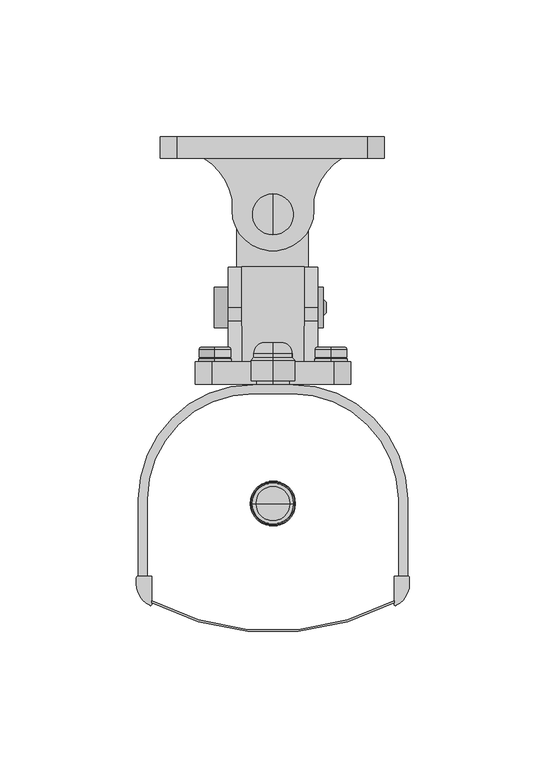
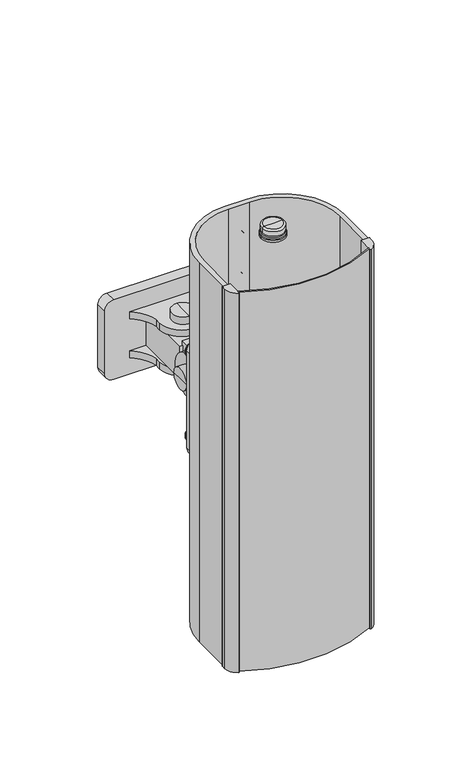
"""IFC4 building model written with IfcOpenShell, lengths in millimetres: proxy geometry, TS-C 10-300_T-EN54 : TS-C 10-300/T-EN54."""

from ifc_helpers import new_model, si_unit, point, frame, frame_2d, origin, place, context, project, spatial, polyline, circle_curve, ellipse_curve, trimmed, segment, composite_curve, outline, extrude, source, transform, mapped, element, save
from ifc_brep_helpers import plane_surface, cylinder_surface, revolved_surface, advanced_brep


def communication_devices_98838bba(model_context):
    return source(origin(), model_context, "Body", "SolidModel", [
        advanced_brep(
        [(-21.25, 9.0, 124.3497739), (-21.25, 9.0, 112.387496), (-21.25, 10.139588, 112.387496), (-21.25, 10.139588, 124.3497739), (-21.25, 9.0, 118.368635), (-21.25, 14.25, 123.4478352), (-21.25, 14.25, 113.2894348), (-21.25, 14.25, 118.368635), (-21.25, 13.5810517, 124.1167835), (-21.25, 13.5810517, 112.6204864), (-21.25, 10.600008, 124.1167835), (-21.25, 10.600008, 112.6204864), (-21.25, 10.600008, 123.0847804), (-21.25, 10.600008, 113.6524896)],
        [
            (0, 1, circle_curve(frame((-21.25, 9.0, 118.368635), z_axis=(0.0, 1.0, 0.0), x_axis=(0.0, 0.0, -1.0)), 5.981139)),
            (1, 2),
            (2, 3, circle_curve(frame((-21.25, 10.139588, 118.368635), z_axis=(0.0, -1.0, 0.0), x_axis=(0.0, 0.0, -1.0)), 5.981139)),
            (3, 0),
            (1, 0, circle_curve(frame((-21.25, 9.0, 118.368635), z_axis=(0.0, 1.0, 0.0), x_axis=(0.0, 0.0, -1.0)), 5.981139)),
            (3, 2, circle_curve(frame((-21.25, 10.139588, 118.368635), z_axis=(0.0, -1.0, 0.0), x_axis=(0.0, 0.0, -1.0)), 5.981139)),
            (4, 1),
            (0, 4),
            (5, 6, circle_curve(frame((-21.25, 14.25, 118.368635), z_axis=(0.0, 1.0, 0.0), x_axis=(0.0, 0.0, -1.0)), 5.0792002)),
            (6, 7),
            (7, 5),
            (6, 5, circle_curve(frame((-21.25, 14.25, 118.368635), z_axis=(0.0, 1.0, 0.0), x_axis=(0.0, 0.0, -1.0)), 5.0792002)),
            (8, 9, circle_curve(frame((-21.25, 13.5810517, 118.368635), z_axis=(0.0, 1.0, 0.0), x_axis=(0.0, 0.0, -1.0)), 5.7481485)),
            (9, 6, circle_curve(frame((-21.25, 13.5810517, 113.2894348), z_axis=(1.0, 0.0, 0.0), x_axis=(0.0, 1.0, 0.0)), 0.6689483)),
            (5, 8, circle_curve(frame((-21.25, 13.5810517, 123.4478352), z_axis=(1.0, 0.0, 0.0), x_axis=(0.0, 1.0, 0.0)), 0.6689483)),
            (9, 8, circle_curve(frame((-21.25, 13.5810517, 118.368635), z_axis=(0.0, 1.0, 0.0), x_axis=(0.0, 0.0, -1.0)), 5.7481485)),
            (10, 11, circle_curve(frame((-21.25, 10.600008, 118.368635), z_axis=(0.0, 1.0, 0.0), x_axis=(0.0, 0.0, -1.0)), 5.7481485)),
            (11, 9),
            (8, 10),
            (11, 10, circle_curve(frame((-21.25, 10.600008, 118.368635), z_axis=(0.0, 1.0, 0.0), x_axis=(0.0, 0.0, -1.0)), 5.7481485)),
            (12, 13, circle_curve(frame((-21.25, 10.600008, 118.368635), z_axis=(0.0, 1.0, 0.0), x_axis=(0.0, 0.0, -1.0)), 4.7161454)),
            (13, 11),
            (10, 12),
            (13, 12, circle_curve(frame((-21.25, 10.600008, 118.368635), z_axis=(0.0, 1.0, 0.0), x_axis=(0.0, 0.0, -1.0)), 4.7161454)),
            (2, 13),
            (12, 3),
        ],
        [
            cylinder_surface(frame((-21.25, 12.3716321, 118.368635), z_axis=(0.0, -1.0, 0.0), x_axis=(0.0, 0.0, -1.0)), 5.981139),
            plane_surface(frame((-21.25, 9.0, 118.368635), z_axis=(0.0, -1.0, 0.0), x_axis=(0.0, 0.0, -1.0))),
            plane_surface(frame((-21.25, 14.25, 118.368635), z_axis=(0.0, 1.0, 0.0), x_axis=(0.0, 0.0, -1.0))),
            revolved_surface(trimmed(ellipse_curve(frame((-21.25, 13.5810517, 113.2894348), z_axis=(-1.0, 0.0, 0.0), x_axis=(0.0, 1.0, 0.0)), 0.6689483, 0.6689483), [point((-21.25, 14.25, 113.2894348))], [point((-21.25, 13.5810517, 112.6204864))], True, "CARTESIAN"), (-21.25, 12.3716321, 118.368635), (0.0, -1.0, 0.0)),
            cylinder_surface(frame((-21.25, 12.3716321, 118.368635), z_axis=(0.0, -1.0, 0.0), x_axis=(0.0, 0.0, -1.0)), 5.7481485),
            plane_surface(frame((-21.25, 10.600008, 118.368635), z_axis=(0.0, -1.0, 0.0), x_axis=(0.0, 0.0, -1.0))),
            revolved_surface(polyline([(-21.25, 10.600008, 113.6524896), (-21.25, 10.139588, 112.387496)]), (-21.25, 12.3716321, 118.368635), (0.0, -1.0, 0.0)),
        ],
        [
            (0, [[1, 2, 3, 4]]),
            (0, [[5, -4, 6, -2]]),
            (1, [[7, -1, 8]]),
            (1, [[-8, -5, -7]]),
            (2, [[9, 10, 11]]),
            (2, [[12, -11, -10]]),
            (3, [[13, 14, -9, 15]]),
            (3, [[16, -15, -12, -14]]),
            (4, [[17, 18, -13, 19]]),
            (4, [[20, -19, -16, -18]]),
            (5, [[21, 22, -17, 23]]),
            (5, [[24, -23, -20, -22]]),
            (6, [[-3, 25, -21, 26]]),
            (6, [[-6, -26, -24, -25]]),
        ],
    ),
        advanced_brep(
        [(21.25, 10.139588, 124.3497739), (21.25, 10.139588, 112.387496), (21.25, 9.0, 112.387496), (21.25, 9.0, 124.3497739), (21.25, 9.0, 118.368635), (21.25, 14.25, 118.368635), (21.25, 14.25, 113.2894348), (21.25, 14.25, 123.4478352), (21.25, 13.5810517, 112.6204864), (21.25, 13.5810517, 124.1167835), (21.25, 10.600008, 112.6204864), (21.25, 10.600008, 124.1167835), (21.25, 10.600008, 113.6524896), (21.25, 10.600008, 123.0847804)],
        [
            (0, 1, circle_curve(frame((21.25, 10.139588, 118.368635), z_axis=(0.0, -1.0, 0.0), x_axis=(0.0, 0.0, -1.0)), 5.981139)),
            (1, 2),
            (2, 3, circle_curve(frame((21.25, 9.0, 118.368635), z_axis=(0.0, 1.0, 0.0), x_axis=(0.0, 0.0, -1.0)), 5.981139)),
            (3, 0),
            (1, 0, circle_curve(frame((21.25, 10.139588, 118.368635), z_axis=(0.0, -1.0, 0.0), x_axis=(0.0, 0.0, -1.0)), 5.981139)),
            (3, 2, circle_curve(frame((21.25, 9.0, 118.368635), z_axis=(0.0, 1.0, 0.0), x_axis=(0.0, 0.0, -1.0)), 5.981139)),
            (2, 4),
            (4, 3),
            (5, 6),
            (6, 7, circle_curve(frame((21.25, 14.25, 118.368635), z_axis=(0.0, 1.0, 0.0), x_axis=(0.0, 0.0, -1.0)), 5.0792002)),
            (7, 5),
            (7, 6, circle_curve(frame((21.25, 14.25, 118.368635), z_axis=(0.0, 1.0, 0.0), x_axis=(0.0, 0.0, -1.0)), 5.0792002)),
            (6, 8, circle_curve(frame((21.25, 13.5810517, 113.2894348), z_axis=(-1.0, 0.0, 0.0), x_axis=(0.0, 1.0, 0.0)), 0.6689483)),
            (8, 9, circle_curve(frame((21.25, 13.5810517, 118.368635), z_axis=(0.0, 1.0, 0.0), x_axis=(0.0, 0.0, -1.0)), 5.7481485)),
            (9, 7, circle_curve(frame((21.25, 13.5810517, 123.4478352), z_axis=(-1.0, 0.0, 0.0), x_axis=(0.0, 1.0, 0.0)), 0.6689483)),
            (9, 8, circle_curve(frame((21.25, 13.5810517, 118.368635), z_axis=(0.0, 1.0, 0.0), x_axis=(0.0, 0.0, -1.0)), 5.7481485)),
            (8, 10),
            (10, 11, circle_curve(frame((21.25, 10.600008, 118.368635), z_axis=(0.0, 1.0, 0.0), x_axis=(0.0, 0.0, -1.0)), 5.7481485)),
            (11, 9),
            (11, 10, circle_curve(frame((21.25, 10.600008, 118.368635), z_axis=(0.0, 1.0, 0.0), x_axis=(0.0, 0.0, -1.0)), 5.7481485)),
            (10, 12),
            (12, 13, circle_curve(frame((21.25, 10.600008, 118.368635), z_axis=(0.0, 1.0, 0.0), x_axis=(0.0, 0.0, -1.0)), 4.7161454)),
            (13, 11),
            (13, 12, circle_curve(frame((21.25, 10.600008, 118.368635), z_axis=(0.0, 1.0, 0.0), x_axis=(0.0, 0.0, -1.0)), 4.7161454)),
            (12, 1),
            (0, 13),
        ],
        [
            cylinder_surface(frame((21.25, 12.3716321, 118.368635), z_axis=(0.0, 1.0, 0.0), x_axis=(0.0, 0.0, -1.0)), 5.981139),
            plane_surface(frame((21.25, 9.0, 118.368635), z_axis=(0.0, -1.0, 0.0), x_axis=(0.0, 0.0, -1.0))),
            plane_surface(frame((21.25, 14.25, 118.368635), z_axis=(0.0, 1.0, 0.0), x_axis=(0.0, 0.0, -1.0))),
            revolved_surface(trimmed(ellipse_curve(frame((21.25, 13.5810517, 113.2894348), z_axis=(1.0, 0.0, 0.0), x_axis=(0.0, 1.0, 0.0)), 0.6689483, 0.6689483), [point((21.25, 13.5810517, 112.6204864))], [point((21.25, 14.25, 113.2894348))], True, "CARTESIAN"), (21.25, 12.3716321, 118.368635), (0.0, 1.0, 0.0)),
            cylinder_surface(frame((21.25, 12.3716321, 118.368635), z_axis=(0.0, 1.0, 0.0), x_axis=(0.0, 0.0, -1.0)), 5.7481485),
            plane_surface(frame((21.25, 10.600008, 118.368635), z_axis=(0.0, -1.0, 0.0), x_axis=(0.0, 0.0, -1.0))),
            revolved_surface(polyline([(21.25, 10.139588, 112.387496), (21.25, 10.600008, 113.6524896)]), (21.25, 12.3716321, 118.368635), (0.0, 1.0, 0.0)),
        ],
        [
            (0, [[1, 2, 3, 4]]),
            (0, [[5, -4, 6, -2]]),
            (1, [[-3, 7, 8]]),
            (1, [[-6, -8, -7]]),
            (2, [[9, 10, 11]]),
            (2, [[-11, 12, -9]]),
            (3, [[-10, 13, 14, 15]]),
            (3, [[-12, -15, 16, -13]]),
            (4, [[-14, 17, 18, 19]]),
            (4, [[-16, -19, 20, -17]]),
            (5, [[-18, 21, 22, 23]]),
            (5, [[-20, -23, 24, -21]]),
            (6, [[-22, 25, -1, 26]]),
            (6, [[-24, -26, -5, -25]]),
        ],
    ),
        advanced_brep(
        [(-21.25, 10.139588, 172.4877181), (-21.25, 10.139588, 184.449996), (-21.25, 9.0, 184.449996), (-21.25, 9.0, 172.4877181), (-21.25, 9.0, 178.468857), (-21.25, 14.25, 178.468857), (-21.25, 14.25, 183.5480572), (-21.25, 14.25, 173.3896568), (-21.25, 13.5810517, 184.2170056), (-21.25, 13.5810517, 172.7207085), (-21.25, 10.600008, 184.2170056), (-21.25, 10.600008, 172.7207085), (-21.25, 10.600008, 183.1850024), (-21.25, 10.600008, 173.7527116)],
        [
            (0, 1, circle_curve(frame((-21.25, 10.139588, 178.468857), z_axis=(0.0, -1.0, 0.0), x_axis=(0.0, 0.0, 1.0)), 5.981139)),
            (1, 2),
            (2, 3, circle_curve(frame((-21.25, 9.0, 178.468857), z_axis=(0.0, 1.0, 0.0), x_axis=(0.0, 0.0, 1.0)), 5.981139)),
            (3, 0),
            (1, 0, circle_curve(frame((-21.25, 10.139588, 178.468857), z_axis=(0.0, -1.0, 0.0), x_axis=(0.0, 0.0, 1.0)), 5.981139)),
            (3, 2, circle_curve(frame((-21.25, 9.0, 178.468857), z_axis=(0.0, 1.0, 0.0), x_axis=(0.0, 0.0, 1.0)), 5.981139)),
            (2, 4),
            (4, 3),
            (5, 6),
            (6, 7, circle_curve(frame((-21.25, 14.25, 178.468857), z_axis=(0.0, 1.0, 0.0), x_axis=(0.0, 0.0, 1.0)), 5.0792002)),
            (7, 5),
            (7, 6, circle_curve(frame((-21.25, 14.25, 178.468857), z_axis=(0.0, 1.0, 0.0), x_axis=(0.0, 0.0, 1.0)), 5.0792002)),
            (6, 8, circle_curve(frame((-21.25, 13.5810517, 183.5480572), z_axis=(1.0, 0.0, 0.0), x_axis=(0.0, 1.0, 0.0)), 0.6689483)),
            (8, 9, circle_curve(frame((-21.25, 13.5810517, 178.468857), z_axis=(0.0, 1.0, 0.0), x_axis=(0.0, 0.0, 1.0)), 5.7481485)),
            (9, 7, circle_curve(frame((-21.25, 13.5810517, 173.3896568), z_axis=(1.0, 0.0, 0.0), x_axis=(0.0, 1.0, 0.0)), 0.6689483)),
            (9, 8, circle_curve(frame((-21.25, 13.5810517, 178.468857), z_axis=(0.0, 1.0, 0.0), x_axis=(0.0, 0.0, 1.0)), 5.7481485)),
            (8, 10),
            (10, 11, circle_curve(frame((-21.25, 10.600008, 178.468857), z_axis=(0.0, 1.0, 0.0), x_axis=(0.0, 0.0, 1.0)), 5.7481485)),
            (11, 9),
            (11, 10, circle_curve(frame((-21.25, 10.600008, 178.468857), z_axis=(0.0, 1.0, 0.0), x_axis=(0.0, 0.0, 1.0)), 5.7481485)),
            (10, 12),
            (12, 13, circle_curve(frame((-21.25, 10.600008, 178.468857), z_axis=(0.0, 1.0, 0.0), x_axis=(0.0, 0.0, 1.0)), 4.7161454)),
            (13, 11),
            (13, 12, circle_curve(frame((-21.25, 10.600008, 178.468857), z_axis=(0.0, 1.0, 0.0), x_axis=(0.0, 0.0, 1.0)), 4.7161454)),
            (12, 1),
            (0, 13),
        ],
        [
            cylinder_surface(frame((-21.25, 12.3716321, 178.468857), z_axis=(0.0, 1.0, 0.0), x_axis=(0.0, 0.0, 1.0)), 5.981139),
            plane_surface(frame((-21.25, 9.0, 178.468857), z_axis=(0.0, -1.0, 0.0), x_axis=(0.0, 0.0, 1.0))),
            plane_surface(frame((-21.25, 14.25, 178.468857), z_axis=(0.0, 1.0, 0.0), x_axis=(0.0, 0.0, 1.0))),
            revolved_surface(trimmed(ellipse_curve(frame((-21.25, 13.5810517, 183.5480572), z_axis=(-1.0, 0.0, 0.0), x_axis=(0.0, 1.0, 0.0)), 0.6689483, 0.6689483), [point((-21.25, 13.5810517, 184.2170056))], [point((-21.25, 14.25, 183.5480572))], True, "CARTESIAN"), (-21.25, 12.3716321, 178.468857), (0.0, 1.0, 0.0)),
            cylinder_surface(frame((-21.25, 12.3716321, 178.468857), z_axis=(0.0, 1.0, 0.0), x_axis=(0.0, 0.0, 1.0)), 5.7481485),
            plane_surface(frame((-21.25, 10.600008, 178.468857), z_axis=(0.0, -1.0, 0.0), x_axis=(0.0, 0.0, 1.0))),
            revolved_surface(polyline([(-21.25, 10.139588, 184.449996), (-21.25, 10.600008, 183.1850024)]), (-21.25, 12.3716321, 178.468857), (0.0, 1.0, 0.0)),
        ],
        [
            (0, [[1, 2, 3, 4]]),
            (0, [[5, -4, 6, -2]]),
            (1, [[-3, 7, 8]]),
            (1, [[-6, -8, -7]]),
            (2, [[9, 10, 11]]),
            (2, [[-11, 12, -9]]),
            (3, [[-10, 13, 14, 15]]),
            (3, [[-12, -15, 16, -13]]),
            (4, [[-14, 17, 18, 19]]),
            (4, [[-16, -19, 20, -17]]),
            (5, [[-18, 21, 22, 23]]),
            (5, [[-20, -23, 24, -21]]),
            (6, [[-22, 25, -1, 26]]),
            (6, [[-24, -26, -5, -25]]),
        ],
    ),
        advanced_brep(
        [(21.25, 9.0, 172.4877181), (21.25, 9.0, 184.449996), (21.25, 10.139588, 184.449996), (21.25, 10.139588, 172.4877181), (21.25, 9.0, 178.468857), (21.25, 14.25, 173.3896568), (21.25, 14.25, 183.5480572), (21.25, 14.25, 178.468857), (21.25, 13.5810517, 172.7207085), (21.25, 13.5810517, 184.2170056), (21.25, 10.600008, 172.7207085), (21.25, 10.600008, 184.2170056), (21.25, 10.600008, 173.7527116), (21.25, 10.600008, 183.1850024)],
        [
            (0, 1, circle_curve(frame((21.25, 9.0, 178.468857), z_axis=(0.0, 1.0, 0.0), x_axis=(0.0, 0.0, 1.0)), 5.981139)),
            (1, 2),
            (2, 3, circle_curve(frame((21.25, 10.139588, 178.468857), z_axis=(0.0, -1.0, 0.0), x_axis=(0.0, 0.0, 1.0)), 5.981139)),
            (3, 0),
            (1, 0, circle_curve(frame((21.25, 9.0, 178.468857), z_axis=(0.0, 1.0, 0.0), x_axis=(0.0, 0.0, 1.0)), 5.981139)),
            (3, 2, circle_curve(frame((21.25, 10.139588, 178.468857), z_axis=(0.0, -1.0, 0.0), x_axis=(0.0, 0.0, 1.0)), 5.981139)),
            (4, 1),
            (0, 4),
            (5, 6, circle_curve(frame((21.25, 14.25, 178.468857), z_axis=(0.0, 1.0, 0.0), x_axis=(0.0, 0.0, 1.0)), 5.0792002)),
            (6, 7),
            (7, 5),
            (6, 5, circle_curve(frame((21.25, 14.25, 178.468857), z_axis=(0.0, 1.0, 0.0), x_axis=(0.0, 0.0, 1.0)), 5.0792002)),
            (8, 9, circle_curve(frame((21.25, 13.5810517, 178.468857), z_axis=(0.0, 1.0, 0.0), x_axis=(0.0, 0.0, 1.0)), 5.7481485)),
            (9, 6, circle_curve(frame((21.25, 13.5810517, 183.5480572), z_axis=(-1.0, 0.0, 0.0), x_axis=(0.0, 1.0, 0.0)), 0.6689483)),
            (5, 8, circle_curve(frame((21.25, 13.5810517, 173.3896568), z_axis=(-1.0, 0.0, 0.0), x_axis=(0.0, 1.0, 0.0)), 0.6689483)),
            (9, 8, circle_curve(frame((21.25, 13.5810517, 178.468857), z_axis=(0.0, 1.0, 0.0), x_axis=(0.0, 0.0, 1.0)), 5.7481485)),
            (10, 11, circle_curve(frame((21.25, 10.600008, 178.468857), z_axis=(0.0, 1.0, 0.0), x_axis=(0.0, 0.0, 1.0)), 5.7481485)),
            (11, 9),
            (8, 10),
            (11, 10, circle_curve(frame((21.25, 10.600008, 178.468857), z_axis=(0.0, 1.0, 0.0), x_axis=(0.0, 0.0, 1.0)), 5.7481485)),
            (12, 13, circle_curve(frame((21.25, 10.600008, 178.468857), z_axis=(0.0, 1.0, 0.0), x_axis=(0.0, 0.0, 1.0)), 4.7161454)),
            (13, 11),
            (10, 12),
            (13, 12, circle_curve(frame((21.25, 10.600008, 178.468857), z_axis=(0.0, 1.0, 0.0), x_axis=(0.0, 0.0, 1.0)), 4.7161454)),
            (2, 13),
            (12, 3),
        ],
        [
            cylinder_surface(frame((21.25, 12.3716321, 178.468857), z_axis=(0.0, -1.0, 0.0), x_axis=(0.0, 0.0, 1.0)), 5.981139),
            plane_surface(frame((21.25, 9.0, 178.468857), z_axis=(0.0, -1.0, 0.0), x_axis=(0.0, 0.0, 1.0))),
            plane_surface(frame((21.25, 14.25, 178.468857), z_axis=(0.0, 1.0, 0.0), x_axis=(0.0, 0.0, 1.0))),
            revolved_surface(trimmed(ellipse_curve(frame((21.25, 13.5810517, 183.5480572), z_axis=(1.0, 0.0, 0.0), x_axis=(0.0, 1.0, 0.0)), 0.6689483, 0.6689483), [point((21.25, 14.25, 183.5480572))], [point((21.25, 13.5810517, 184.2170056))], True, "CARTESIAN"), (21.25, 12.3716321, 178.468857), (0.0, -1.0, 0.0)),
            cylinder_surface(frame((21.25, 12.3716321, 178.468857), z_axis=(0.0, -1.0, 0.0), x_axis=(0.0, 0.0, 1.0)), 5.7481485),
            plane_surface(frame((21.25, 10.600008, 178.468857), z_axis=(0.0, -1.0, 0.0), x_axis=(0.0, 0.0, 1.0))),
            revolved_surface(polyline([(21.25, 10.600008, 183.1850024), (21.25, 10.139588, 184.449996)]), (21.25, 12.3716321, 178.468857), (0.0, -1.0, 0.0)),
        ],
        [
            (0, [[1, 2, 3, 4]]),
            (0, [[5, -4, 6, -2]]),
            (1, [[7, -1, 8]]),
            (1, [[-8, -5, -7]]),
            (2, [[9, 10, 11]]),
            (2, [[12, -11, -10]]),
            (3, [[13, 14, -9, 15]]),
            (3, [[16, -15, -12, -14]]),
            (4, [[17, 18, -13, 19]]),
            (4, [[20, -19, -16, -18]]),
            (5, [[21, 22, -17, 23]]),
            (5, [[24, -23, -20, -22]]),
            (6, [[-3, 25, -21, 26]]),
            (6, [[-6, -26, -24, -25]]),
        ],
    ),
        advanced_brep(
        [(0.0, 61.007476, 128.449996), (0.0, 64.992524, 128.449996), (0.0, 63.0, 128.449996), (0.0, 60.007476, 129.449996), (0.0, 65.992524, 129.449996), (0.0, 55.5, 129.449996), (0.0, 70.5, 129.449996), (0.0, 55.5, 169.449996), (0.0, 70.5, 169.449996), (0.0, 63.0, 169.449996)],
        [
            (0, 1, circle_curve(frame((0.0, 63.0, 128.449996), z_axis=(0.0, 0.0, -1.0), x_axis=(0.0, 1.0, 0.0)), 1.992524)),
            (1, 2),
            (2, 0),
            (1, 0, circle_curve(frame((0.0, 63.0, 128.449996), z_axis=(0.0, 0.0, -1.0), x_axis=(0.0, 1.0, 0.0)), 1.992524)),
            (3, 4, circle_curve(frame((0.0, 63.0, 129.449996), z_axis=(0.0, 0.0, -1.0), x_axis=(0.0, 1.0, 0.0)), 2.992524)),
            (4, 1),
            (0, 3),
            (4, 3, circle_curve(frame((0.0, 63.0, 129.449996), z_axis=(0.0, 0.0, -1.0), x_axis=(0.0, 1.0, 0.0)), 2.992524)),
            (5, 6, circle_curve(frame((0.0, 63.0, 129.449996), z_axis=(0.0, 0.0, -1.0), x_axis=(0.0, 1.0, 0.0)), 7.5)),
            (6, 4),
            (3, 5),
            (6, 5, circle_curve(frame((0.0, 63.0, 129.449996), z_axis=(0.0, 0.0, -1.0), x_axis=(0.0, 1.0, 0.0)), 7.5)),
            (7, 8, circle_curve(frame((0.0, 63.0, 169.449996), z_axis=(0.0, 0.0, -1.0), x_axis=(0.0, 1.0, 0.0)), 7.5)),
            (8, 6),
            (5, 7),
            (8, 7, circle_curve(frame((0.0, 63.0, 169.449996), z_axis=(0.0, 0.0, -1.0), x_axis=(0.0, 1.0, 0.0)), 7.5)),
            (9, 8),
            (7, 9),
        ],
        [
            plane_surface(frame((0.0, 63.0, 128.449996), z_axis=(0.0, 0.0, -1.0), x_axis=(0.0, 1.0, 0.0))),
            revolved_surface(polyline([(0.0, 64.992524, 128.449996), (0.0, 65.992524, 129.449996)]), (0.0, 63.0, 142.8473632), (0.0, 0.0, 1.0)),
            plane_surface(frame((0.0, 63.0, 129.449996), z_axis=(0.0, 0.0, -1.0), x_axis=(0.0, 1.0, 0.0))),
            cylinder_surface(frame((0.0, 63.0, 142.8473632), z_axis=(0.0, 0.0, 1.0), x_axis=(0.0, 1.0, 0.0)), 7.5),
            plane_surface(frame((0.0, 63.0, 169.449996), z_axis=(0.0, 0.0, 1.0), x_axis=(0.0, 1.0, 0.0))),
        ],
        [
            (0, [[1, 2, 3]]),
            (0, [[4, -3, -2]]),
            (1, [[5, 6, -1, 7]]),
            (1, [[8, -7, -4, -6]]),
            (2, [[9, 10, -5, 11]]),
            (2, [[12, -11, -8, -10]]),
            (3, [[13, 14, -9, 15]]),
            (3, [[16, -15, -12, -14]]),
            (4, [[17, -13, 18]]),
            (4, [[-18, -16, -17]]),
        ],
    ),
        advanced_brep(
        [(-21.5, 21.375002, 148.125), (-21.5, 36.375, 148.125), (18.5, 36.375, 148.125), (18.5, 21.375002, 148.125), (-21.5, 28.875001, 148.125), (19.5, 26.882478, 148.125), (19.5, 30.867524, 148.125), (19.5, 28.875001, 148.125), (18.5, 25.882478, 148.125), (18.5, 31.867524, 148.125)],
        [
            (0, 1, circle_curve(frame((-21.5, 28.875001, 148.125), z_axis=(1.0, 0.0, 0.0), x_axis=(0.0, 1.0, 0.0)), 7.499999)),
            (1, 2),
            (2, 3, circle_curve(frame((18.5, 28.875001, 148.125), z_axis=(-1.0, 0.0, 0.0), x_axis=(0.0, 1.0, 0.0)), 7.499999)),
            (3, 0),
            (1, 0, circle_curve(frame((-21.5, 28.875001, 148.125), z_axis=(1.0, 0.0, 0.0), x_axis=(0.0, 1.0, 0.0)), 7.499999)),
            (3, 2, circle_curve(frame((18.5, 28.875001, 148.125), z_axis=(-1.0, 0.0, 0.0), x_axis=(0.0, 1.0, 0.0)), 7.499999)),
            (4, 1),
            (0, 4),
            (5, 6, circle_curve(frame((19.5, 28.875001, 148.125), z_axis=(1.0, 0.0, 0.0), x_axis=(0.0, 1.0, 0.0)), 1.992523)),
            (6, 7),
            (7, 5),
            (6, 5, circle_curve(frame((19.5, 28.875001, 148.125), z_axis=(1.0, 0.0, 0.0), x_axis=(0.0, 1.0, 0.0)), 1.992523)),
            (8, 9, circle_curve(frame((18.5, 28.875001, 148.125), z_axis=(1.0, 0.0, 0.0), x_axis=(0.0, 1.0, 0.0)), 2.992523)),
            (9, 6),
            (5, 8),
            (9, 8, circle_curve(frame((18.5, 28.875001, 148.125), z_axis=(1.0, 0.0, 0.0), x_axis=(0.0, 1.0, 0.0)), 2.992523)),
            (2, 9),
            (8, 3),
        ],
        [
            cylinder_surface(frame((-3.4349086, 28.875001, 148.125), z_axis=(-1.0, 0.0, 0.0), x_axis=(0.0, 1.0, 0.0)), 7.499999),
            plane_surface(frame((-21.5, 28.875001, 148.125), z_axis=(-1.0, 0.0, 0.0), x_axis=(0.0, 1.0, 0.0))),
            plane_surface(frame((19.5, 28.875001, 148.125), z_axis=(1.0, 0.0, 0.0), x_axis=(0.0, 1.0, 0.0))),
            revolved_surface(polyline([(19.5, 30.867524, 148.125), (18.5, 31.867524, 148.125)]), (-3.4349086, 28.875001, 148.125), (-1.0, 0.0, 0.0)),
            plane_surface(frame((18.5, 28.875001, 148.125), z_axis=(1.0, 0.0, 0.0), x_axis=(0.0, 1.0, 0.0))),
        ],
        [
            (0, [[1, 2, 3, 4]]),
            (0, [[5, -4, 6, -2]]),
            (1, [[7, -1, 8]]),
            (1, [[-8, -5, -7]]),
            (2, [[9, 10, 11]]),
            (2, [[12, -11, -10]]),
            (3, [[13, 14, -9, 15]]),
            (3, [[16, -15, -12, -14]]),
            (4, [[-3, 17, -13, 18]]),
            (4, [[-6, -18, -16, -17]]),
        ],
    ),
        extrude(outline(composite_curve([segment(trimmed(circle_curve(frame_2d((170.449996, -35.2248208)), 6.0), [point((176.449996, -35.2248208))], [point((170.449996, -41.2248208))], False, "CARTESIAN"), True, "CONTINUOUS"), segment(polyline([(170.449996, -41.2248208), (125.449996, -41.2248208)]), True, "CONTINUOUS"), segment(trimmed(circle_curve(frame_2d((125.449996, -35.2248208)), 6.0), [point((125.449996, -41.2248208))], [point((119.449996, -35.2248208))], False, "CARTESIAN"), True, "CONTINUOUS"), segment(polyline([(119.449996, -35.2248208), (119.449996, 34.7751792)]), True, "CONTINUOUS"), segment(trimmed(circle_curve(frame_2d((125.449996, 34.7751792)), 6.0), [point((119.449996, 34.7751792))], [point((125.449996, 40.7751792))], False, "CARTESIAN"), True, "CONTINUOUS"), segment(polyline([(125.449996, 40.7751792), (170.449996, 40.7751792)]), True, "CONTINUOUS"), segment(trimmed(circle_curve(frame_2d((170.449996, 34.7751792)), 6.0), [point((170.449996, 40.7751792))], [point((176.449996, 34.7751792))], False, "CARTESIAN"), True, "CONTINUOUS"), segment(polyline([(176.449996, 34.7751792), (176.449996, -35.2248208)]), True, "CONTINUOUS")], self_intersect=False)), frame((0.0, 83.5, 0.0), z_axis=(0.0, 1.0, 0.0), x_axis=(0.0, 0.0, 1.0)), (0.0, 0.0, 1.0), 8.0),
        extrude(outline(polyline([(-13.2981208, 43.774882), (-13.2981208, 83.5), (13.0, 83.5), (13.0, 43.774882), (-13.2981208, 43.774882)])), frame((0.0, 0.0, 136.4784716), z_axis=(0.0, 0.0, 1.0), x_axis=(1.0, 0.0, 0.0)), (0.0, 0.0, 1.0), 22.9715244),
        extrude(outline(polyline([(11.5, 43.774882), (11.5, 9.0), (-11.421106, 9.0), (-11.421106, 43.774882), (11.5, 43.774882)])), frame((0.0, 0.0, 131.4784716), z_axis=(0.0, 0.0, 1.0), x_axis=(1.0, 0.0, 0.0)), (0.0, 0.0, 1.0), 31.4715244),
        extrude(outline(composite_curve([segment(trimmed(circle_curve(frame_2d((28.774882, 147.949996)), 15.0), [point((28.774882, 162.949996))], [point((28.774882, 132.949996))], False, "CARTESIAN"), True, "CONTINUOUS"), segment(polyline([(28.774882, 132.949996), (24.01576, 132.949996)]), True, "CONTINUOUS"), segment(trimmed(circle_curve(frame_2d((27.899538, 111.17778)), 22.115902), [point((24.01576, 132.949996))], [point((9.0, 122.6634487))], True, "CARTESIAN"), True, "CONTINUOUS"), segment(polyline([(9.0, 122.6634487), (9.0, 173.2365453)]), True, "CONTINUOUS"), segment(trimmed(circle_curve(frame_2d((27.899538, 184.722214)), 22.115902), [point((9.0, 173.2365453))], [point((24.0157712, 162.949996))], True, "CARTESIAN"), True, "CONTINUOUS"), segment(polyline([(24.0157712, 162.949996), (28.774882, 162.949996)]), True, "CONTINUOUS")], self_intersect=False)), frame((-16.421106, 0.0, 0.0), z_axis=(1.0, 0.0, 0.0), x_axis=(0.0, 1.0, 0.0)), (0.0, 0.0, 1.0), 5.0),
        extrude(outline(composite_curve([segment(trimmed(circle_curve(frame_2d((0.0, 64.5832153)), 15.0), [point((15.0, 64.5832153))], [point((-15.0, 64.5832153))], False, "CARTESIAN"), True, "CONTINUOUS"), segment(polyline([(-15.0, 64.5832153), (-15.0, 68.4842168)]), True, "CONTINUOUS"), segment(trimmed(circle_curve(frame_2d((-36.772218, 64.60045)), 22.115902), [point((-15.0, 68.4842168))], [point((-25.2865691, 83.5))], True, "CARTESIAN"), True, "CONTINUOUS"), segment(polyline([(-25.2865691, 83.5), (25.2865671, 83.5)]), True, "CONTINUOUS"), segment(trimmed(circle_curve(frame_2d((36.772216, 64.60045)), 22.115902), [point((25.2865671, 83.5))], [point((15.0, 68.484228))], True, "CARTESIAN"), True, "CONTINUOUS"), segment(polyline([(15.0, 68.484228), (15.0, 64.5832153)]), True, "CONTINUOUS")], self_intersect=False)), frame((0.0, 0.0, 131.4784716), z_axis=(0.0, 0.0, 1.0), x_axis=(1.0, 0.0, 0.0)), (0.0, 0.0, 1.0), 5.0),
        extrude(outline(composite_curve([segment(trimmed(circle_curve(frame_2d((0.0, 64.5832153)), 15.0), [point((15.0, 64.5832153))], [point((-15.0, 64.5832153))], False, "CARTESIAN"), True, "CONTINUOUS"), segment(polyline([(-15.0, 64.5832153), (-15.0, 68.4842168)]), True, "CONTINUOUS"), segment(trimmed(circle_curve(frame_2d((-36.772218, 64.60045)), 22.115902), [point((-15.0, 68.4842168))], [point((-25.2865691, 83.5))], True, "CARTESIAN"), True, "CONTINUOUS"), segment(polyline([(-25.2865691, 83.5), (25.2865671, 83.5)]), True, "CONTINUOUS"), segment(trimmed(circle_curve(frame_2d((36.772216, 64.60045)), 22.115902), [point((25.2865671, 83.5))], [point((15.0, 68.484228))], True, "CARTESIAN"), True, "CONTINUOUS"), segment(polyline([(15.0, 68.484228), (15.0, 64.5832153)]), True, "CONTINUOUS")], self_intersect=False)), frame((0.0, 0.0, 159.449996), z_axis=(0.0, 0.0, 1.0), x_axis=(1.0, 0.0, 0.0)), (0.0, 0.0, 1.0), 5.0),
        extrude(outline(composite_curve([segment(trimmed(circle_curve(frame_2d((28.774882, 147.949996)), 15.0), [point((28.774882, 162.949996))], [point((28.774882, 132.949996))], False, "CARTESIAN"), True, "CONTINUOUS"), segment(polyline([(28.774882, 132.949996), (24.01576, 132.949996)]), True, "CONTINUOUS"), segment(trimmed(circle_curve(frame_2d((27.899538, 111.17778)), 22.115902), [point((24.01576, 132.949996))], [point((9.0, 122.6634487))], True, "CARTESIAN"), True, "CONTINUOUS"), segment(polyline([(9.0, 122.6634487), (9.0, 173.2365453)]), True, "CONTINUOUS"), segment(trimmed(circle_curve(frame_2d((27.899538, 184.722214)), 22.115902), [point((9.0, 173.2365453))], [point((24.0157712, 162.949996))], True, "CARTESIAN"), True, "CONTINUOUS"), segment(polyline([(24.0157712, 162.949996), (28.774882, 162.949996)]), True, "CONTINUOUS")], self_intersect=False)), frame((11.5, 0.0, 0.0), z_axis=(1.0, 0.0, 0.0), x_axis=(0.0, 1.0, 0.0)), (0.0, 0.0, 1.0), 5.0),
        extrude(outline(composite_curve([segment(trimmed(circle_curve(frame_2d((182.864283, -22.414287)), 6.085713), [point((188.949996, -22.414287))], [point((182.864283, -28.5))], False, "CARTESIAN"), True, "CONTINUOUS"), segment(polyline([(182.864283, -28.5), (113.049996, -28.5)]), True, "CONTINUOUS"), segment(trimmed(circle_curve(frame_2d((113.049996, -22.4)), 6.1), [point((113.049996, -28.5))], [point((106.949996, -22.4))], False, "CARTESIAN"), True, "CONTINUOUS"), segment(polyline([(106.949996, -22.4), (106.949996, 22.4)]), True, "CONTINUOUS"), segment(trimmed(circle_curve(frame_2d((113.049996, 22.4)), 6.1), [point((106.949996, 22.4))], [point((113.049996, 28.5))], False, "CARTESIAN"), True, "CONTINUOUS"), segment(polyline([(113.049996, 28.5), (182.849996, 28.5)]), True, "CONTINUOUS"), segment(trimmed(circle_curve(frame_2d((182.849996, 22.4)), 6.1), [point((182.849996, 28.5))], [point((188.949996, 22.4))], False, "CARTESIAN"), True, "CONTINUOUS"), segment(polyline([(188.949996, 22.4), (188.949996, -22.414287)]), True, "CONTINUOUS")], self_intersect=False)), frame((0.0, 0.6574121, 0.0), z_axis=(0.0, 1.0, 0.0), x_axis=(0.0, 0.0, 1.0)), (0.0, 0.0, 1.0), 8.3425879),
        advanced_brep(
        [(0.0, 0.5458566, 221.9487199), (0.0, 0.5458566, 233.949996), (0.0, 2.0, 233.949996), (0.0, 2.0, 221.9487199), (0.0, 0.5458566, 227.949358), (0.0, 16.0, 224.8577378), (0.0, 16.0, 231.0409782), (0.0, 16.0, 227.949358), (0.0, 12.0909822, 220.9487199), (0.0, 12.0909822, 234.949996), (0.0, 10.600008, 220.9487199), (0.0, 10.600008, 234.949996), (0.0, 9.600008, 219.9487199), (0.0, 9.600008, 235.949996), (0.0, 2.0, 219.9487199), (0.0, 2.0, 235.949996)],
        [
            (0, 1, circle_curve(frame((0.0, 0.5458566, 227.949358), z_axis=(0.0, 1.0, 0.0), x_axis=(0.0, 0.0, 1.0)), 6.000638)),
            (1, 2),
            (2, 3, circle_curve(frame((0.0, 2.0, 227.949358), z_axis=(0.0, -1.0, 0.0), x_axis=(0.0, 0.0, 1.0)), 6.000638)),
            (3, 0),
            (1, 0, circle_curve(frame((0.0, 0.5458566, 227.949358), z_axis=(0.0, 1.0, 0.0), x_axis=(0.0, 0.0, 1.0)), 6.000638)),
            (3, 2, circle_curve(frame((0.0, 2.0, 227.949358), z_axis=(0.0, -1.0, 0.0), x_axis=(0.0, 0.0, 1.0)), 6.000638)),
            (4, 1),
            (0, 4),
            (5, 6, circle_curve(frame((0.0, 16.0, 227.949358), z_axis=(0.0, 1.0, 0.0), x_axis=(0.0, 0.0, 1.0)), 3.0916202)),
            (6, 7),
            (7, 5),
            (6, 5, circle_curve(frame((0.0, 16.0, 227.949358), z_axis=(0.0, 1.0, 0.0), x_axis=(0.0, 0.0, 1.0)), 3.0916202)),
            (8, 9, circle_curve(frame((0.0, 12.0909822, 227.949358), z_axis=(0.0, 1.0, 0.0), x_axis=(0.0, 0.0, 1.0)), 7.000638)),
            (9, 6, circle_curve(frame((0.0, 12.0909822, 231.0409782), z_axis=(-1.0, 0.0, 0.0), x_axis=(0.0, 1.0, 0.0)), 3.9090178)),
            (5, 8, circle_curve(frame((0.0, 12.0909822, 224.8577378), z_axis=(-1.0, 0.0, 0.0), x_axis=(0.0, 1.0, 0.0)), 3.9090178)),
            (9, 8, circle_curve(frame((0.0, 12.0909822, 227.949358), z_axis=(0.0, 1.0, 0.0), x_axis=(0.0, 0.0, 1.0)), 7.000638)),
            (10, 11, circle_curve(frame((0.0, 10.600008, 227.949358), z_axis=(0.0, 1.0, 0.0), x_axis=(0.0, 0.0, 1.0)), 7.000638)),
            (11, 9),
            (8, 10),
            (11, 10, circle_curve(frame((0.0, 10.600008, 227.949358), z_axis=(0.0, 1.0, 0.0), x_axis=(0.0, 0.0, 1.0)), 7.000638)),
            (12, 13, circle_curve(frame((0.0, 9.600008, 227.949358), z_axis=(0.0, 1.0, 0.0), x_axis=(0.0, 0.0, 1.0)), 8.000638)),
            (13, 11),
            (10, 12),
            (13, 12, circle_curve(frame((0.0, 9.600008, 227.949358), z_axis=(0.0, 1.0, 0.0), x_axis=(0.0, 0.0, 1.0)), 8.000638)),
            (14, 15, circle_curve(frame((0.0, 2.0, 227.949358), z_axis=(0.0, 1.0, 0.0), x_axis=(0.0, 0.0, 1.0)), 8.000638)),
            (15, 13),
            (12, 14),
            (15, 14, circle_curve(frame((0.0, 2.0, 227.949358), z_axis=(0.0, 1.0, 0.0), x_axis=(0.0, 0.0, 1.0)), 8.000638)),
            (2, 15),
            (14, 3),
        ],
        [
            cylinder_surface(frame((0.0, 3.9079042, 227.949358), z_axis=(0.0, -1.0, 0.0), x_axis=(0.0, 0.0, 1.0)), 6.000638),
            plane_surface(frame((0.0, 0.5458566, 227.949358), z_axis=(0.0, -1.0, 0.0), x_axis=(0.0, 0.0, 1.0))),
            plane_surface(frame((0.0, 16.0, 227.949358), z_axis=(0.0, 1.0, 0.0), x_axis=(0.0, 0.0, 1.0))),
            revolved_surface(trimmed(ellipse_curve(frame((0.0, 12.0909822, 231.0409782), z_axis=(1.0, 0.0, 0.0), x_axis=(0.0, 1.0, 0.0)), 3.9090178, 3.9090178), [point((0.0, 16.0, 231.0409782))], [point((0.0, 12.0909822, 234.949996))], True, "CARTESIAN"), (0.0, 3.9079042, 227.949358), (0.0, -1.0, 0.0)),
            cylinder_surface(frame((0.0, 3.9079042, 227.949358), z_axis=(0.0, -1.0, 0.0), x_axis=(0.0, 0.0, 1.0)), 7.000638),
            revolved_surface(polyline([(0.0, 10.600008, 234.949996), (0.0, 9.600008, 235.949996)]), (0.0, 3.9079042, 227.949358), (0.0, -1.0, 0.0)),
            cylinder_surface(frame((0.0, 3.9079042, 227.949358), z_axis=(0.0, -1.0, 0.0), x_axis=(0.0, 0.0, 1.0)), 8.000638),
            plane_surface(frame((0.0, 2.0, 227.949358), z_axis=(0.0, -1.0, 0.0), x_axis=(0.0, 0.0, 1.0))),
        ],
        [
            (0, [[1, 2, 3, 4]]),
            (0, [[5, -4, 6, -2]]),
            (1, [[7, -1, 8]]),
            (1, [[-8, -5, -7]]),
            (2, [[9, 10, 11]]),
            (2, [[12, -11, -10]]),
            (3, [[13, 14, -9, 15]]),
            (3, [[16, -15, -12, -14]]),
            (4, [[17, 18, -13, 19]]),
            (4, [[20, -19, -16, -18]]),
            (5, [[21, 22, -17, 23]]),
            (5, [[24, -23, -20, -22]]),
            (6, [[25, 26, -21, 27]]),
            (6, [[28, -27, -24, -26]]),
            (7, [[-3, 29, -25, 30]]),
            (7, [[-6, -30, -28, -29]]),
        ],
    ),
        advanced_brep(
        [(0.0, 0.5458566, 251.9487199), (0.0, 0.5458566, 263.949996), (0.0, 2.0, 263.949996), (0.0, 2.0, 251.9487199), (0.0, 0.5458566, 257.949358), (0.0, 16.0, 254.8577378), (0.0, 16.0, 261.0409782), (0.0, 16.0, 257.949358), (0.0, 12.0909822, 250.9487199), (0.0, 12.0909822, 264.949996), (0.0, 10.600008, 250.9487199), (0.0, 10.600008, 264.949996), (0.0, 9.600008, 249.9487199), (0.0, 9.600008, 265.949996), (0.0, 2.0, 249.9487199), (0.0, 2.0, 265.949996)],
        [
            (0, 1, circle_curve(frame((0.0, 0.5458566, 257.949358), z_axis=(0.0, 1.0, 0.0), x_axis=(0.0, 0.0, 1.0)), 6.000638)),
            (1, 2),
            (2, 3, circle_curve(frame((0.0, 2.0, 257.949358), z_axis=(0.0, -1.0, 0.0), x_axis=(0.0, 0.0, 1.0)), 6.000638)),
            (3, 0),
            (1, 0, circle_curve(frame((0.0, 0.5458566, 257.949358), z_axis=(0.0, 1.0, 0.0), x_axis=(0.0, 0.0, 1.0)), 6.000638)),
            (3, 2, circle_curve(frame((0.0, 2.0, 257.949358), z_axis=(0.0, -1.0, 0.0), x_axis=(0.0, 0.0, 1.0)), 6.000638)),
            (4, 1),
            (0, 4),
            (5, 6, circle_curve(frame((0.0, 16.0, 257.949358), z_axis=(0.0, 1.0, 0.0), x_axis=(0.0, 0.0, 1.0)), 3.0916202)),
            (6, 7),
            (7, 5),
            (6, 5, circle_curve(frame((0.0, 16.0, 257.949358), z_axis=(0.0, 1.0, 0.0), x_axis=(0.0, 0.0, 1.0)), 3.0916202)),
            (8, 9, circle_curve(frame((0.0, 12.0909822, 257.949358), z_axis=(0.0, 1.0, 0.0), x_axis=(0.0, 0.0, 1.0)), 7.000638)),
            (9, 6, circle_curve(frame((0.0, 12.0909822, 261.0409782), z_axis=(-1.0, 0.0, 0.0), x_axis=(0.0, 1.0, 0.0)), 3.9090178)),
            (5, 8, circle_curve(frame((0.0, 12.0909822, 254.8577378), z_axis=(-1.0, 0.0, 0.0), x_axis=(0.0, 1.0, 0.0)), 3.9090178)),
            (9, 8, circle_curve(frame((0.0, 12.0909822, 257.949358), z_axis=(0.0, 1.0, 0.0), x_axis=(0.0, 0.0, 1.0)), 7.000638)),
            (10, 11, circle_curve(frame((0.0, 10.600008, 257.949358), z_axis=(0.0, 1.0, 0.0), x_axis=(0.0, 0.0, 1.0)), 7.000638)),
            (11, 9),
            (8, 10),
            (11, 10, circle_curve(frame((0.0, 10.600008, 257.949358), z_axis=(0.0, 1.0, 0.0), x_axis=(0.0, 0.0, 1.0)), 7.000638)),
            (12, 13, circle_curve(frame((0.0, 9.600008, 257.949358), z_axis=(0.0, 1.0, 0.0), x_axis=(0.0, 0.0, 1.0)), 8.000638)),
            (13, 11),
            (10, 12),
            (13, 12, circle_curve(frame((0.0, 9.600008, 257.949358), z_axis=(0.0, 1.0, 0.0), x_axis=(0.0, 0.0, 1.0)), 8.000638)),
            (14, 15, circle_curve(frame((0.0, 2.0, 257.949358), z_axis=(0.0, 1.0, 0.0), x_axis=(0.0, 0.0, 1.0)), 8.000638)),
            (15, 13),
            (12, 14),
            (15, 14, circle_curve(frame((0.0, 2.0, 257.949358), z_axis=(0.0, 1.0, 0.0), x_axis=(0.0, 0.0, 1.0)), 8.000638)),
            (2, 15),
            (14, 3),
        ],
        [
            cylinder_surface(frame((0.0, 3.9079042, 257.949358), z_axis=(0.0, -1.0, 0.0), x_axis=(0.0, 0.0, 1.0)), 6.000638),
            plane_surface(frame((0.0, 0.5458566, 257.949358), z_axis=(0.0, -1.0, 0.0), x_axis=(0.0, 0.0, 1.0))),
            plane_surface(frame((0.0, 16.0, 257.949358), z_axis=(0.0, 1.0, 0.0), x_axis=(0.0, 0.0, 1.0))),
            revolved_surface(trimmed(ellipse_curve(frame((0.0, 12.0909822, 261.0409782), z_axis=(1.0, 0.0, 0.0), x_axis=(0.0, 1.0, 0.0)), 3.9090178, 3.9090178), [point((0.0, 16.0, 261.0409782))], [point((0.0, 12.0909822, 264.949996))], True, "CARTESIAN"), (0.0, 3.9079042, 257.949358), (0.0, -1.0, 0.0)),
            cylinder_surface(frame((0.0, 3.9079042, 257.949358), z_axis=(0.0, -1.0, 0.0), x_axis=(0.0, 0.0, 1.0)), 7.000638),
            revolved_surface(polyline([(0.0, 10.600008, 264.949996), (0.0, 9.600008, 265.949996)]), (0.0, 3.9079042, 257.949358), (0.0, -1.0, 0.0)),
            cylinder_surface(frame((0.0, 3.9079042, 257.949358), z_axis=(0.0, -1.0, 0.0), x_axis=(0.0, 0.0, 1.0)), 8.000638),
            plane_surface(frame((0.0, 2.0, 257.949358), z_axis=(0.0, -1.0, 0.0), x_axis=(0.0, 0.0, 1.0))),
        ],
        [
            (0, [[1, 2, 3, 4]]),
            (0, [[5, -4, 6, -2]]),
            (1, [[7, -1, 8]]),
            (1, [[-8, -5, -7]]),
            (2, [[9, 10, 11]]),
            (2, [[12, -11, -10]]),
            (3, [[13, 14, -9, 15]]),
            (3, [[16, -15, -12, -14]]),
            (4, [[17, 18, -13, 19]]),
            (4, [[20, -19, -16, -18]]),
            (5, [[21, 22, -17, 23]]),
            (5, [[24, -23, -20, -22]]),
            (6, [[25, 26, -21, 27]]),
            (6, [[28, -27, -24, -26]]),
            (7, [[-3, 29, -25, 30]]),
            (7, [[-6, -30, -28, -29]]),
        ],
    ),
        extrude(outline(composite_curve([segment(trimmed(circle_curve(frame_2d((0.0, 6.0281007)), 96.2856409), [point((44.4447392, -79.3861241))], [point((-44.4447392, -79.3861241))], False, "CARTESIAN"), True, "CONTINUOUS"), segment(polyline([(-44.4447392, -79.3861241), (-44.4447392, -78.5195073)]), True, "CONTINUOUS"), segment(trimmed(circle_curve(frame_2d((0.0, 4.3065647)), 93.9973035), [point((-44.4447392, -78.5195073))], [point((44.4447392, -78.5195073))], True, "CARTESIAN"), True, "CONTINUOUS"), segment(polyline([(44.4447392, -78.5195073), (44.4447392, -79.3861241)]), True, "CONTINUOUS")], self_intersect=False)), frame((0.0, 0.0, 12.1250116), z_axis=(0.0, 0.0, 1.0), x_axis=(1.0, 0.0, 0.0)), (0.0, 0.0, 1.0), 272.0131173),
        extrude(outline(composite_curve([segment(polyline([(-49.4883546, -69.623), (-44.4447392, -69.623), (-44.4447392, -79.9646085)]), True, "CONTINUOUS"), segment(trimmed(circle_curve(frame_2d((-44.8447392, -79.9646085)), 0.4), [point((-44.4447392, -79.9646085))], [point((-45.0204916, -80.3239288))], False, "CARTESIAN"), True, "CONTINUOUS"), segment(trimmed(circle_curve(frame_2d((-41.1180645, -72.3455399)), 8.8816455), [point((-45.0204916, -80.3239288))], [point((-49.99971, -72.3455399))], False, "CARTESIAN"), True, "CONTINUOUS"), segment(polyline([(-49.99971, -72.3455399), (-49.99971, -70.1343554)]), True, "CONTINUOUS"), segment(trimmed(circle_curve(frame_2d((-49.4883546, -70.1343554)), 0.5113554), [point((-49.99971, -70.1343554))], [point((-49.4883546, -69.623))], False, "CARTESIAN"), True, "CONTINUOUS")], self_intersect=False)), frame((0.0, 0.0, 11.8243116), z_axis=(0.0, 0.0, 1.0), x_axis=(1.0, 0.0, 0.0)), (0.0, 0.0, 1.0), 272.3138173),
        extrude(outline(composite_curve([segment(trimmed(circle_curve(frame_2d((49.49971, -70.123)), 0.5), [point((49.49971, -69.623))], [point((49.99971, -70.123))], False, "CARTESIAN"), True, "CONTINUOUS"), segment(polyline([(49.99971, -70.123), (49.99971, -72.3455399)]), True, "CONTINUOUS"), segment(trimmed(circle_curve(frame_2d((41.1180645, -72.3455399)), 8.8816455), [point((49.99971, -72.3455399))], [point((45.0637475, -80.3026256))], False, "CARTESIAN"), True, "CONTINUOUS"), segment(trimmed(circle_curve(frame_2d((44.8733407, -79.9186405)), 0.4286015), [point((45.0637475, -80.3026256))], [point((44.4447392, -79.9186405))], False, "CARTESIAN"), True, "CONTINUOUS"), segment(polyline([(44.4447392, -79.9186405), (44.4447392, -69.623), (49.49971, -69.623)]), True, "CONTINUOUS")], self_intersect=False)), frame((0.0, 0.0, 11.8243116), z_axis=(0.0, 0.0, 1.0), x_axis=(1.0, 0.0, 0.0)), (0.0, 0.0, 1.0), 272.3138173),
        extrude(outline(composite_curve([segment(polyline([(-46.00029, -41.4763398), (-46.00029, -69.623), (-49.30029, -69.623), (-49.30029, -41.4763398)]), True, "CONTINUOUS"), segment(trimmed(circle_curve(frame_2d((-7.20029, -41.4763398)), 42.1), [point((-49.30029, -41.4763398))], [point((-7.20029, 0.6236602))], False, "CARTESIAN"), True, "CONTINUOUS"), segment(polyline([(-7.20029, 0.6236602), (7.19971, 0.6236602)]), True, "CONTINUOUS"), segment(trimmed(circle_curve(frame_2d((7.19971, -41.4763398)), 42.1), [point((7.19971, 0.6236602))], [point((49.29971, -41.4763398))], False, "CARTESIAN"), True, "CONTINUOUS"), segment(polyline([(49.29971, -41.4763398), (49.29971, -69.623), (45.99971, -69.623), (45.99971, -41.4763398)]), True, "CONTINUOUS"), segment(trimmed(circle_curve(frame_2d((7.19971, -41.4763398)), 38.8), [point((45.99971, -41.4763398))], [point((7.19971, -2.6763398))], True, "CARTESIAN"), True, "CONTINUOUS"), segment(polyline([(7.19971, -2.6763398), (-7.20029, -2.6763398)]), True, "CONTINUOUS"), segment(trimmed(circle_curve(frame_2d((-7.20029, -41.4763398)), 38.8), [point((-7.20029, -2.6763398))], [point((-46.00029, -41.4763398))], True, "CARTESIAN"), True, "CONTINUOUS")], self_intersect=False)), frame((0.0, 0.0, 11.8243116), z_axis=(0.0, 0.0, 1.0), x_axis=(1.0, 0.0, 0.0)), (0.0, 0.0, 1.0), 272.3138173),
        advanced_brep(
        [(0.0, -42.96875, 287.949996), (-8.2401398, -42.96875, 287.949996), (8.2401398, -42.96875, 287.949996), (-8.2401398, -42.96875, 289.1206965), (8.2401398, -42.96875, 289.1206965), (-8.0745091, -42.96875, 289.8876301), (8.0745091, -42.96875, 289.8876301), (-7.6798654, -42.96875, 290.7586914), (7.6798654, -42.96875, 290.7586914), (-7.4956938, -42.96875, 291.6114768), (7.4956938, -42.96875, 291.6114768), (-7.4956938, -42.96875, 294.8429106), (7.4956938, -42.96875, 294.8429106), (-6.3386044, -42.96875, 296.0), (6.3386044, -42.96875, 296.0), (0.0, -42.96875, 296.0)],
        [
            (0, 1),
            (1, 2, circle_curve(frame((0.0, -42.96875, 287.949996), z_axis=(0.0, 0.0, -1.0), x_axis=(-1.0, 0.0, 0.0)), 8.2401398)),
            (2, 0),
            (2, 1, circle_curve(frame((0.0, -42.96875, 287.949996), z_axis=(0.0, 0.0, -1.0), x_axis=(-1.0, 0.0, 0.0)), 8.2401398)),
            (1, 3),
            (3, 4, circle_curve(frame((0.0, -42.96875, 289.1206965), z_axis=(0.0, 0.0, -1.0), x_axis=(-1.0, 0.0, 0.0)), 8.2401398)),
            (4, 2),
            (4, 3, circle_curve(frame((0.0, -42.96875, 289.1206965), z_axis=(0.0, 0.0, -1.0), x_axis=(-1.0, 0.0, 0.0)), 8.2401398)),
            (3, 5, circle_curve(frame((-6.3817258, -42.96875, 289.1206965), z_axis=(0.0, 1.0, 0.0), x_axis=(1.0, 0.0, 0.0)), 1.858414)),
            (5, 6, circle_curve(frame((0.0, -42.96875, 289.8876301), z_axis=(0.0, 0.0, -1.0), x_axis=(-1.0, 0.0, 0.0)), 8.0745091)),
            (6, 4, circle_curve(frame((6.3817258, -42.96875, 289.1206965), z_axis=(0.0, 1.0, 0.0), x_axis=(-1.0, 0.0, 0.0)), 1.858414)),
            (6, 5, circle_curve(frame((0.0, -42.96875, 289.8876301), z_axis=(0.0, 0.0, -1.0), x_axis=(-1.0, 0.0, 0.0)), 8.0745091)),
            (5, 7),
            (7, 8, circle_curve(frame((0.0, -42.96875, 290.7586914), z_axis=(0.0, 0.0, -1.0), x_axis=(-1.0, 0.0, 0.0)), 7.6798654)),
            (8, 6),
            (8, 7, circle_curve(frame((0.0, -42.96875, 290.7586914), z_axis=(0.0, 0.0, -1.0), x_axis=(-1.0, 0.0, 0.0)), 7.6798654)),
            (7, 9, circle_curve(frame((-9.5621413, -42.96875, 291.6114768), z_axis=(0.0, -1.0, 0.0), x_axis=(1.0, 0.0, 0.0)), 2.0664475)),
            (9, 10, circle_curve(frame((0.0, -42.96875, 291.6114768), z_axis=(0.0, 0.0, -1.0), x_axis=(-1.0, 0.0, 0.0)), 7.4956938)),
            (10, 8, circle_curve(frame((9.5621413, -42.96875, 291.6114768), z_axis=(0.0, -1.0, 0.0), x_axis=(-1.0, 0.0, 0.0)), 2.0664475)),
            (10, 9, circle_curve(frame((0.0, -42.96875, 291.6114768), z_axis=(0.0, 0.0, -1.0), x_axis=(-1.0, 0.0, 0.0)), 7.4956938)),
            (9, 11),
            (11, 12, circle_curve(frame((0.0, -42.96875, 294.8429106), z_axis=(0.0, 0.0, -1.0), x_axis=(-1.0, 0.0, 0.0)), 7.4956938)),
            (12, 10),
            (12, 11, circle_curve(frame((0.0, -42.96875, 294.8429106), z_axis=(0.0, 0.0, -1.0), x_axis=(-1.0, 0.0, 0.0)), 7.4956938)),
            (11, 13, circle_curve(frame((-6.3386044, -42.96875, 294.8429106), z_axis=(0.0, 1.0, 0.0), x_axis=(1.0, 0.0, 0.0)), 1.1570894)),
            (13, 14, circle_curve(frame((0.0, -42.96875, 296.0), z_axis=(0.0, 0.0, -1.0), x_axis=(-1.0, 0.0, 0.0)), 6.3386044)),
            (14, 12, circle_curve(frame((6.3386044, -42.96875, 294.8429106), z_axis=(0.0, 1.0, 0.0), x_axis=(-1.0, 0.0, 0.0)), 1.1570894)),
            (14, 13, circle_curve(frame((0.0, -42.96875, 296.0), z_axis=(0.0, 0.0, -1.0), x_axis=(-1.0, 0.0, 0.0)), 6.3386044)),
            (13, 15),
            (15, 14),
        ],
        [
            plane_surface(frame((0.0, -42.96875, 287.949996), z_axis=(0.0, 0.0, -1.0), x_axis=(-1.0, 0.0, 0.0))),
            cylinder_surface(frame((0.0, -42.96875, 289.1212983), z_axis=(0.0, 0.0, -1.0), x_axis=(-1.0, 0.0, 0.0)), 8.2401398),
            revolved_surface(trimmed(ellipse_curve(frame((-6.3817258, -42.96875, 289.1206965), z_axis=(0.0, -1.0, 0.0), x_axis=(1.0, 0.0, 0.0)), 1.858414, 1.858414), [point((-8.0745091, -42.96875, 289.8876301))], [point((-8.2401398, -42.96875, 289.1206965))], True, "CARTESIAN"), (0.0, -42.96875, 289.1212983), (0.0, 0.0, -1.0)),
            revolved_surface(polyline([(-7.6798654, -42.96875, 290.7586914), (-8.0745091, -42.96875, 289.8876301)]), (0.0, -42.96875, 289.1212983), (0.0, 0.0, -1.0)),
            revolved_surface(trimmed(ellipse_curve(frame((-9.5621413, -42.96875, 291.6114768), z_axis=(0.0, 1.0, 0.0), x_axis=(1.0, 0.0, 0.0)), 2.0664475, 2.0664475), [point((-7.4956938, -42.96875, 291.6114768))], [point((-7.6798654, -42.96875, 290.7586914))], True, "CARTESIAN"), (0.0, -42.96875, 289.1212983), (0.0, 0.0, -1.0)),
            cylinder_surface(frame((0.0, -42.96875, 289.1212983), z_axis=(0.0, 0.0, -1.0), x_axis=(-1.0, 0.0, 0.0)), 7.4956938),
            revolved_surface(trimmed(ellipse_curve(frame((-6.3386044, -42.96875, 294.8429106), z_axis=(0.0, -1.0, 0.0), x_axis=(1.0, 0.0, 0.0)), 1.1570894, 1.1570894), [point((-6.3386044, -42.96875, 296.0))], [point((-7.4956938, -42.96875, 294.8429106))], True, "CARTESIAN"), (0.0, -42.96875, 289.1212983), (0.0, 0.0, -1.0)),
            plane_surface(frame((0.0, -42.96875, 296.0), z_axis=(0.0, 0.0, 1.0), x_axis=(-1.0, 0.0, 0.0))),
        ],
        [
            (0, [[1, 2, 3]]),
            (0, [[-3, 4, -1]]),
            (1, [[-2, 5, 6, 7]]),
            (1, [[-4, -7, 8, -5]]),
            (2, [[-6, 9, 10, 11]]),
            (2, [[-8, -11, 12, -9]]),
            (3, [[-10, 13, 14, 15]]),
            (3, [[-12, -15, 16, -13]]),
            (4, [[-14, 17, 18, 19]]),
            (4, [[-16, -19, 20, -17]]),
            (5, [[-18, 21, 22, 23]]),
            (5, [[-20, -23, 24, -21]]),
            (6, [[-22, 25, 26, 27]]),
            (6, [[-24, -27, 28, -25]]),
            (7, [[-26, 29, 30]]),
            (7, [[-28, -30, -29]]),
        ],
    ),
    ])


if __name__ == "__main__":
    model = new_model("IFC4")
    model_context = context("Model", 3, world=origin())
    ifc_project = project(units=[si_unit("LENGTHUNIT", "METRE", prefix="MILLI")], contexts=[model_context])
    site = spatial("IfcSite", under=ifc_project)
    building = spatial("IfcBuilding", under=site)
    placement = place(None, origin())
    communication_devices_shape = communication_devices_98838bba(model_context)
    element("IfcBuildingElementProxy", 1, Name="TS-C 10-300_T-EN54 : TS-C 10-300/T-EN54", ObjectType="TS-C 10-300_T-EN54 : TS-C 10-300/T-EN54", at=placement, inside=building, context=model_context, shape_type="MappedRepresentation", body=[
        mapped(communication_devices_shape, transform((0.0, 0.0, 0.0), x_axis=(1.0, 0.0, 0.0), y_axis=(0.0, 1.0, 0.0), z_axis=(0.0, 0.0, 1.0))),
    ])
    save(model, "model.ifc")
